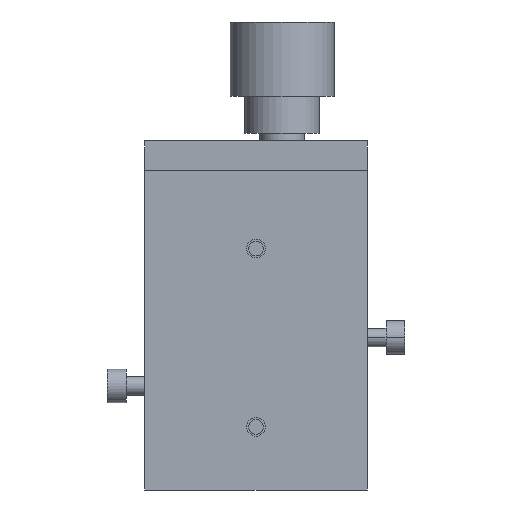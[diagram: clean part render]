
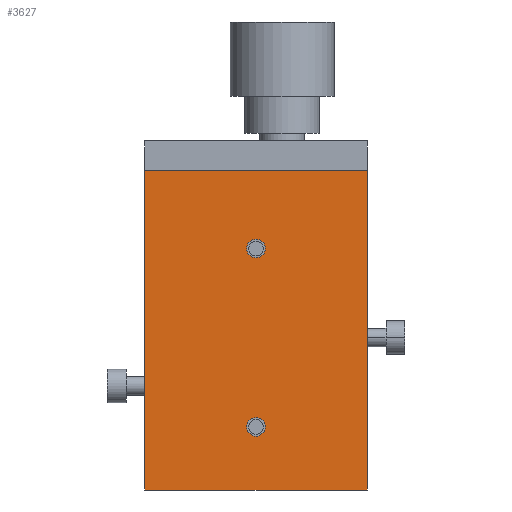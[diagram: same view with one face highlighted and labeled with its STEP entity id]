
A CAD part, front view. The second image highlights one B-rep face of the part: STEP entity #3627.
In plain terms, the highlighted planar face has unit normal (0, -1, 0).
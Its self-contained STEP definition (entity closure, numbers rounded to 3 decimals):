
#44 = VECTOR ( 'NONE', #236, 1000. ) ;
#64 = CARTESIAN_POINT ( 'NONE',  ( -15., 0., 22.5 ) ) ;
#65 = LINE ( 'NONE', #64, #44 ) ;
#67 = CARTESIAN_POINT ( 'NONE',  ( 15., 0., 22.5 ) ) ;
#68 = DIRECTION ( 'NONE',  ( 0., 0., 1. ) ) ;
#69 = VECTOR ( 'NONE', #68, 1000. ) ;
#70 = CARTESIAN_POINT ( 'NONE',  ( 15., 0., -20.5 ) ) ;
#71 = LINE ( 'NONE', #70, #69 ) ;
#96 = DIRECTION ( 'NONE',  ( 1., 0., 0. ) ) ;
#97 = DIRECTION ( 'NONE',  ( 0., -1., 0. ) ) ;
#98 = CARTESIAN_POINT ( 'NONE',  ( -15., 0., -20.5 ) ) ;
#99 = AXIS2_PLACEMENT_3D ( 'NONE', #98, #97, #96 ) ;
#100 = PLANE ( 'NONE',  #99 ) ;
#102 = FACE_BOUND ( 'NONE', #3660, .T. ) ;
#103 = FACE_OUTER_BOUND ( 'NONE', #3630, .T. ) ;
#104 = FACE_BOUND ( 'NONE', #3628, .T. ) ;
#105 = DIRECTION ( 'NONE',  ( 1., 0., 0. ) ) ;
#106 = VECTOR ( 'NONE', #105, 1000. ) ;
#107 = CARTESIAN_POINT ( 'NONE',  ( -15., 0., -20.5 ) ) ;
#108 = LINE ( 'NONE', #107, #106 ) ;
#130 = CARTESIAN_POINT ( 'NONE',  ( 15., 0., -20.5 ) ) ;
#236 = DIRECTION ( 'NONE',  ( 1., 0., 0. ) ) ;
#3001 = EDGE_CURVE ( 'NONE', #3002, #3003, #5462, .T. ) ;
#3002 = VERTEX_POINT ( 'NONE', #5453 ) ;
#3003 = VERTEX_POINT ( 'NONE', #5452 ) ;
#3167 = EDGE_CURVE ( 'NONE', #3168, #3169, #5694, .T. ) ;
#3168 = VERTEX_POINT ( 'NONE', #5690 ) ;
#3169 = VERTEX_POINT ( 'NONE', #5689 ) ;
#3308 = EDGE_CURVE ( 'NONE', #3386, #3385, #5858, .T. ) ;
#3384 = EDGE_CURVE ( 'NONE', #3385, #3386, #5828, .T. ) ;
#3385 = VERTEX_POINT ( 'NONE', #5823 ) ;
#3386 = VERTEX_POINT ( 'NONE', #5822 ) ;
#3501 = EDGE_CURVE ( 'NONE', #3003, #3002, #6197, .T. ) ;
#3626 = EDGE_CURVE ( 'NONE', #3168, #3670, #108, .T. ) ;
#3627 = ADVANCED_FACE ( 'NONE', ( #104, #103, #102 ), #100, .T. ) ;
#3628 = EDGE_LOOP ( 'NONE', ( #3629, #3652 ) ) ;
#3629 = ORIENTED_EDGE ( 'NONE', *, *, #3308, .T. ) ;
#3630 = EDGE_LOOP ( 'NONE', ( #3653, #3656, #3658, #3659 ) ) ;
#3652 = ORIENTED_EDGE ( 'NONE', *, *, #3384, .T. ) ;
#3653 = ORIENTED_EDGE ( 'NONE', *, *, #3654, .T. ) ;
#3654 = EDGE_CURVE ( 'NONE', #3670, #3655, #71, .T. ) ;
#3655 = VERTEX_POINT ( 'NONE', #67 ) ;
#3656 = ORIENTED_EDGE ( 'NONE', *, *, #3657, .F. ) ;
#3657 = EDGE_CURVE ( 'NONE', #3169, #3655, #65, .T. ) ;
#3658 = ORIENTED_EDGE ( 'NONE', *, *, #3167, .F. ) ;
#3659 = ORIENTED_EDGE ( 'NONE', *, *, #3626, .T. ) ;
#3660 = EDGE_LOOP ( 'NONE', ( #3661, #3662 ) ) ;
#3661 = ORIENTED_EDGE ( 'NONE', *, *, #3501, .T. ) ;
#3662 = ORIENTED_EDGE ( 'NONE', *, *, #3001, .T. ) ;
#3670 = VERTEX_POINT ( 'NONE', #130 ) ;
#5452 = CARTESIAN_POINT ( 'NONE',  ( -1.25, 0., -12. ) ) ;
#5453 = CARTESIAN_POINT ( 'NONE',  ( 1.25, 0., -12. ) ) ;
#5454 = DIRECTION ( 'NONE',  ( -1., 0., 0. ) ) ;
#5455 = DIRECTION ( 'NONE',  ( 0., 1., 0. ) ) ;
#5456 = CARTESIAN_POINT ( 'NONE',  ( 0., 0., -12. ) ) ;
#5457 = AXIS2_PLACEMENT_3D ( 'NONE', #5456, #5455, #5454 ) ;
#5462 = CIRCLE ( 'NONE', #5457, 1.25 ) ;
#5689 = CARTESIAN_POINT ( 'NONE',  ( -15., 0., 22.5 ) ) ;
#5690 = CARTESIAN_POINT ( 'NONE',  ( -15., 0., -20.5 ) ) ;
#5691 = DIRECTION ( 'NONE',  ( 0., 0., 1. ) ) ;
#5692 = VECTOR ( 'NONE', #5691, 1000. ) ;
#5693 = CARTESIAN_POINT ( 'NONE',  ( -15., 0., -20.5 ) ) ;
#5694 = LINE ( 'NONE', #5693, #5692 ) ;
#5822 = CARTESIAN_POINT ( 'NONE',  ( -1.25, 0., 12. ) ) ;
#5823 = CARTESIAN_POINT ( 'NONE',  ( 1.25, 0., 12. ) ) ;
#5824 = DIRECTION ( 'NONE',  ( -1., 0., 0. ) ) ;
#5825 = DIRECTION ( 'NONE',  ( 0., 1., 0. ) ) ;
#5826 = CARTESIAN_POINT ( 'NONE',  ( 0., 0., 12. ) ) ;
#5827 = AXIS2_PLACEMENT_3D ( 'NONE', #5826, #5825, #5824 ) ;
#5828 = CIRCLE ( 'NONE', #5827, 1.25 ) ;
#5854 = DIRECTION ( 'NONE',  ( -1., 0., 0. ) ) ;
#5855 = DIRECTION ( 'NONE',  ( 0., 1., 0. ) ) ;
#5856 = CARTESIAN_POINT ( 'NONE',  ( 0., 0., 12. ) ) ;
#5857 = AXIS2_PLACEMENT_3D ( 'NONE', #5856, #5855, #5854 ) ;
#5858 = CIRCLE ( 'NONE', #5857, 1.25 ) ;
#6194 = DIRECTION ( 'NONE',  ( -1., 0., 0. ) ) ;
#6195 = DIRECTION ( 'NONE',  ( 0., 1., 0. ) ) ;
#6196 = AXIS2_PLACEMENT_3D ( 'NONE', #6203, #6195, #6194 ) ;
#6197 = CIRCLE ( 'NONE', #6196, 1.25 ) ;
#6203 = CARTESIAN_POINT ( 'NONE',  ( 0., 0., -12. ) ) ;
